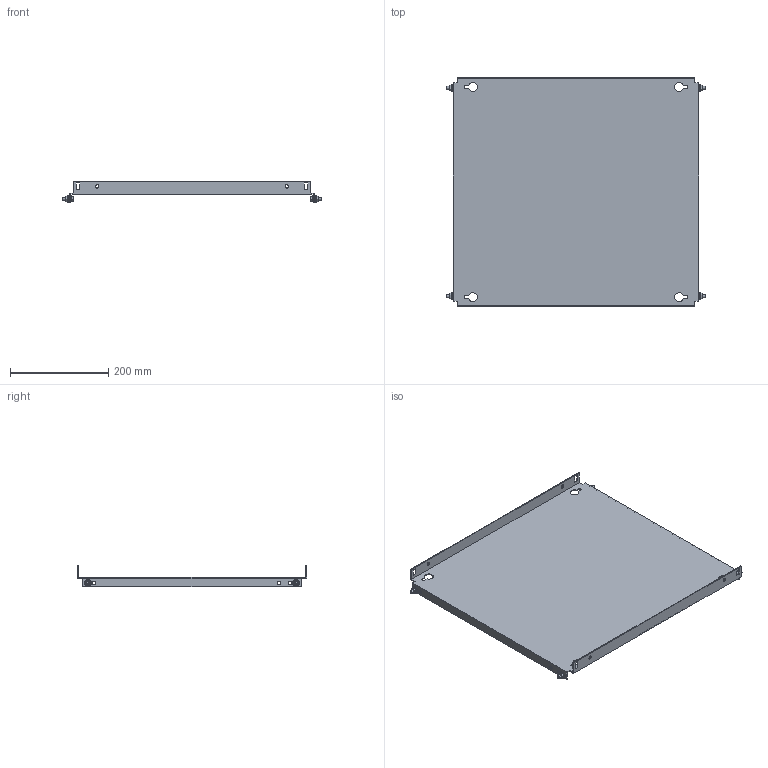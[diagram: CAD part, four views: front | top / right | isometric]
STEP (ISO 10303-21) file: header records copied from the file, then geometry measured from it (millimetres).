
FILE_DESCRIPTION(('Open CASCADE Model'),'2;1');
FILE_NAME('Open CASCADE Shape Model','2025-02-20T13:24:43',('Author'),( 'Open CASCADE'),'Open CASCADE STEP processor 7.8','Open CASCADE 7.8' ,'Unknown');
FILE_SCHEMA(('AUTOMOTIVE_DESIGN { 1 0 10303 214 1 1 1 1 }'));
Length unit declared in the file: millimetre
Products named in the file (4): Compound1; Solid1; Solid2; Solid3
Assembly tree (9 placements, depth 2):
  Compound1
    Solid1
    Solid2  x4
    Solid3  x4
Bounding box: 528 x 469 x 43 mm (x, y, z)
Volume: 546949.8 mm3; surface area: 551739.8 mm2
Topology: 9 solids, 9 shells, 308 faces, 753 edges, 467 vertices
Faces by surface type: plane 150, cone 68, bspline 48, cylinder 30, torus 12
Full cylindrical faces by diameter (mm): 5 x4, 6 x8, 7 x14
Entity records: 4930 total; most frequent: CARTESIAN_POINT 1377, ORIENTED_EDGE 756, DIRECTION 642, EDGE_CURVE 378, VERTEX_POINT 245, LINE 216, VECTOR 216, AXIS2_PLACEMENT_3D 213
